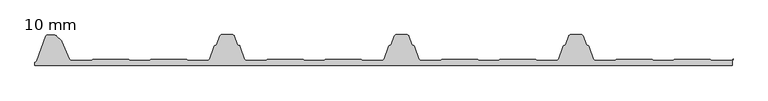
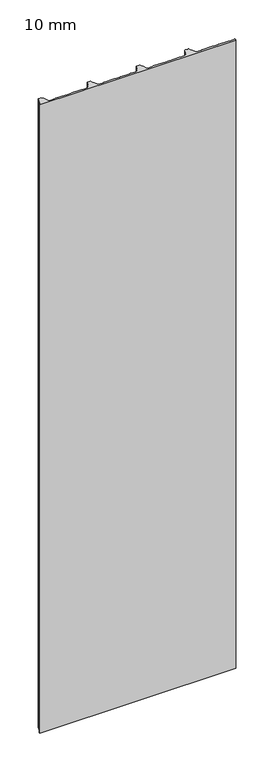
"""IFC4 building model written with IfcOpenShell, lengths in millimetres: plate geometry, HIANSA PANEL - H20.F01.009-PANELES DE CUBIERTA SIN TAPAJUNTA - EASY ALU 5GR - Panel de Muro Cortina : 10 mm."""

from ifc_helpers import new_model, si_unit, point, frame_2d, origin, origin_with_axes, place, context, project, spatial, polyline, circle_curve, trimmed, segment, composite_curve, outline, extrude, source, transform, mapped, element, save


def plate_10_mm_8220b348(model_context):
    return source(origin(), model_context, "Body", "SweptSolid", [
        extrude(outline(composite_curve([segment(polyline([(-486.0046627, 5.4632456), (-484.137089, 6.894297), (-483.3059854, 7.4234527), (-470.422387, 42.8208483)]), True, "CONTINUOUS"), segment(trimmed(circle_curve(frame_2d((-468.1671247, 42.0)), 2.4), [point((-470.422387, 42.8208483))], [point((-468.1671247, 44.4))], False, "CARTESIAN"), True, "CONTINUOUS"), segment(polyline([(-468.1671247, 44.4), (-458.1823567, 44.4)]), True, "CONTINUOUS"), segment(trimmed(circle_curve(frame_2d((-458.1823567, 40.0)), 4.4), [point((-458.1823567, 44.4))], [point((-455.0710869, 43.1112698))], False, "CARTESIAN"), True, "CONTINUOUS"), segment(polyline([(-455.0710869, 43.1112698), (-448.3843059, 36.4244889)]), True, "CONTINUOUS"), segment(trimmed(circle_curve(frame_2d((-451.4955758, 33.313219)), 4.4), [point((-448.3843059, 36.4244889))], [point((-447.4584377, 35.0629379))], False, "CARTESIAN"), True, "CONTINUOUS"), segment(polyline([(-447.4584377, 35.0629379), (-436.669007, 10.1684119)]), True, "CONTINUOUS"), segment(trimmed(circle_curve(frame_2d((-433.365894, 11.6)), 3.6), [point((-436.669007, 10.1684119))], [point((-433.365894, 8.0))], True, "CARTESIAN"), True, "CONTINUOUS"), segment(polyline([(-433.365894, 8.0), (-405.5009812, 8.0)]), True, "CONTINUOUS"), segment(trimmed(circle_curve(frame_2d((-405.5009812, 10.6)), 2.6), [point((-405.5009812, 8.0))], [point((-403.9019917, 8.5498213))], True, "CARTESIAN"), True, "CONTINUOUS"), segment(polyline([(-403.9019917, 8.5498213), (-403.236987, 9.1783324)]), True, "CONTINUOUS"), segment(trimmed(circle_curve(frame_2d((-402.3441269, 8.1)), 1.4), [point((-403.236987, 9.1783324))], [point((-402.3441269, 9.5))], False, "CARTESIAN"), True, "CONTINUOUS"), segment(polyline([(-402.3441269, 9.5), (-352.3428935, 9.5)]), True, "CONTINUOUS"), segment(trimmed(circle_curve(frame_2d((-352.3428935, 8.1)), 1.4), [point((-352.3428935, 9.5))], [point((-351.4500334, 9.1783324))], False, "CARTESIAN"), True, "CONTINUOUS"), segment(polyline([(-351.4500334, 9.1783324), (-350.7850287, 8.5498213)]), True, "CONTINUOUS"), segment(trimmed(circle_curve(frame_2d((-349.1860393, 10.6)), 2.6), [point((-350.7850287, 8.5498213))], [point((-349.1860393, 8.0))], True, "CARTESIAN"), True, "CONTINUOUS"), segment(polyline([(-349.1860393, 8.0), (-322.1676478, 8.0)]), True, "CONTINUOUS"), segment(trimmed(circle_curve(frame_2d((-322.1676478, 10.6)), 2.6), [point((-322.1676478, 8.0))], [point((-320.5686584, 8.5498213))], True, "CARTESIAN"), True, "CONTINUOUS"), segment(polyline([(-320.5686584, 8.5498213), (-319.9036537, 9.1783324)]), True, "CONTINUOUS"), segment(trimmed(circle_curve(frame_2d((-319.0107936, 8.1)), 1.4), [point((-319.9036537, 9.1783324))], [point((-319.0107936, 9.5))], False, "CARTESIAN"), True, "CONTINUOUS"), segment(polyline([(-319.0107936, 9.5), (-269.0095602, 9.5)]), True, "CONTINUOUS"), segment(trimmed(circle_curve(frame_2d((-269.0095602, 8.1)), 1.4), [point((-269.0095602, 9.5))], [point((-268.1167, 9.1783324))], False, "CARTESIAN"), True, "CONTINUOUS"), segment(polyline([(-268.1167, 9.1783324), (-267.4516953, 8.5498213)]), True, "CONTINUOUS"), segment(trimmed(circle_curve(frame_2d((-265.8527059, 10.6)), 2.6), [point((-267.4516953, 8.5498213))], [point((-265.8527059, 8.0))], True, "CARTESIAN"), True, "CONTINUOUS"), segment(polyline([(-265.8527059, 8.0), (-238.8343148, 8.0)]), True, "CONTINUOUS"), segment(trimmed(circle_curve(frame_2d((-238.8343148, 11.6)), 3.6), [point((-238.8343148, 8.0))], [point((-235.4514214, 10.3687274))], True, "CARTESIAN"), True, "CONTINUOUS"), segment(polyline([(-235.4514214, 10.3687274), (-228.7331927, 28.8269071)]), True, "CONTINUOUS"), segment(trimmed(circle_curve(frame_2d((-227.7935001, 28.4848869)), 1.0), [point((-228.7331927, 28.8269071))], [point((-228.1355202, 29.4245795))], False, "CARTESIAN"), True, "CONTINUOUS"), segment(polyline([(-228.1355202, 29.4245795), (-226.2894564, 30.0964918)]), True, "CONTINUOUS"), segment(trimmed(circle_curve(frame_2d((-226.8366886, 31.6)), 1.6), [point((-226.2894564, 30.0964918))], [point((-225.3331804, 31.0527678))], True, "CARTESIAN"), True, "CONTINUOUS"), segment(polyline([(-225.3331804, 31.0527678), (-220.9752583, 43.0260604)]), True, "CONTINUOUS"), segment(trimmed(circle_curve(frame_2d((-218.1561804, 42.0)), 3.0), [point((-220.9752583, 43.0260604))], [point((-218.1561804, 45.0))], False, "CARTESIAN"), True, "CONTINUOUS"), segment(polyline([(-218.1561804, 45.0), (-203.1975067, 45.0)]), True, "CONTINUOUS"), segment(trimmed(circle_curve(frame_2d((-203.1975067, 42.0)), 3.0), [point((-203.1975067, 45.0))], [point((-200.3784288, 43.0260604))], False, "CARTESIAN"), True, "CONTINUOUS"), segment(polyline([(-200.3784288, 43.0260604), (-196.0205067, 31.0527678)]), True, "CONTINUOUS"), segment(trimmed(circle_curve(frame_2d((-194.5169985, 31.6)), 1.6), [point((-196.0205067, 31.0527678))], [point((-195.0642307, 30.0964918))], True, "CARTESIAN"), True, "CONTINUOUS"), segment(polyline([(-195.0642307, 30.0964918), (-193.2181669, 29.4245795)]), True, "CONTINUOUS"), segment(trimmed(circle_curve(frame_2d((-193.560187, 28.4848869)), 1.0), [point((-193.2181669, 29.4245795))], [point((-192.6204944, 28.8269071))], False, "CARTESIAN"), True, "CONTINUOUS"), segment(polyline([(-192.6204944, 28.8269071), (-185.9022656, 10.3687274)]), True, "CONTINUOUS"), segment(trimmed(circle_curve(frame_2d((-182.5193722, 11.6)), 3.6), [point((-185.9022656, 10.3687274))], [point((-182.5193722, 8.0))], True, "CARTESIAN"), True, "CONTINUOUS"), segment(polyline([(-182.5193722, 8.0), (-155.5009812, 8.0)]), True, "CONTINUOUS"), segment(trimmed(circle_curve(frame_2d((-155.5009812, 10.6)), 2.6), [point((-155.5009812, 8.0))], [point((-153.9019917, 8.5498213))], True, "CARTESIAN"), True, "CONTINUOUS"), segment(polyline([(-153.9019917, 8.5498213), (-153.236987, 9.1783324)]), True, "CONTINUOUS"), segment(trimmed(circle_curve(frame_2d((-152.3441269, 8.1)), 1.4), [point((-153.236987, 9.1783324))], [point((-152.3441269, 9.5))], False, "CARTESIAN"), True, "CONTINUOUS"), segment(polyline([(-152.3441269, 9.5), (-102.3428935, 9.5)]), True, "CONTINUOUS"), segment(trimmed(circle_curve(frame_2d((-102.3428935, 8.1)), 1.4), [point((-102.3428935, 9.5))], [point((-101.4500334, 9.1783324))], False, "CARTESIAN"), True, "CONTINUOUS"), segment(polyline([(-101.4500334, 9.1783324), (-100.7850287, 8.5498213)]), True, "CONTINUOUS"), segment(trimmed(circle_curve(frame_2d((-99.1860393, 10.6)), 2.6), [point((-100.7850287, 8.5498213))], [point((-99.1860393, 8.0))], True, "CARTESIAN"), True, "CONTINUOUS"), segment(polyline([(-99.1860393, 8.0), (-72.1676478, 8.0)]), True, "CONTINUOUS"), segment(trimmed(circle_curve(frame_2d((-72.1676478, 10.6)), 2.6), [point((-72.1676478, 8.0))], [point((-70.5686584, 8.5498213))], True, "CARTESIAN"), True, "CONTINUOUS"), segment(polyline([(-70.5686584, 8.5498213), (-69.9036537, 9.1783324)]), True, "CONTINUOUS"), segment(trimmed(circle_curve(frame_2d((-69.0107936, 8.1)), 1.4), [point((-69.9036537, 9.1783324))], [point((-69.0107936, 9.5))], False, "CARTESIAN"), True, "CONTINUOUS"), segment(polyline([(-69.0107936, 9.5), (-19.0095602, 9.5)]), True, "CONTINUOUS"), segment(trimmed(circle_curve(frame_2d((-19.0095602, 8.1)), 1.4), [point((-19.0095602, 9.5))], [point((-18.1167, 9.1783324))], False, "CARTESIAN"), True, "CONTINUOUS"), segment(polyline([(-18.1167, 9.1783324), (-17.4516953, 8.5498213)]), True, "CONTINUOUS"), segment(trimmed(circle_curve(frame_2d((-15.8527059, 10.6)), 2.6), [point((-17.4516953, 8.5498213))], [point((-15.8527059, 8.0))], True, "CARTESIAN"), True, "CONTINUOUS"), segment(polyline([(-15.8527059, 8.0), (11.1656852, 8.0)]), True, "CONTINUOUS"), segment(trimmed(circle_curve(frame_2d((11.1656852, 11.6)), 3.6), [point((11.1656852, 8.0))], [point((14.5485786, 10.3687274))], True, "CARTESIAN"), True, "CONTINUOUS"), segment(polyline([(14.5485786, 10.3687274), (21.2668073, 28.8269071)]), True, "CONTINUOUS"), segment(trimmed(circle_curve(frame_2d((22.2064999, 28.4848869)), 1.0), [point((21.2668073, 28.8269071))], [point((21.8644798, 29.4245795))], False, "CARTESIAN"), True, "CONTINUOUS"), segment(polyline([(21.8644798, 29.4245795), (23.7105436, 30.0964918)]), True, "CONTINUOUS"), segment(trimmed(circle_curve(frame_2d((23.1633114, 31.6)), 1.6), [point((23.7105436, 30.0964918))], [point((24.6668196, 31.0527678))], True, "CARTESIAN"), True, "CONTINUOUS"), segment(polyline([(24.6668196, 31.0527678), (29.0247417, 43.0260604)]), True, "CONTINUOUS"), segment(trimmed(circle_curve(frame_2d((31.8438196, 42.0)), 3.0), [point((29.0247417, 43.0260604))], [point((31.8438196, 45.0))], False, "CARTESIAN"), True, "CONTINUOUS"), segment(polyline([(31.8438196, 45.0), (46.8024933, 45.0)]), True, "CONTINUOUS"), segment(trimmed(circle_curve(frame_2d((46.8024933, 42.0)), 3.0), [point((46.8024933, 45.0))], [point((49.6215712, 43.0260604))], False, "CARTESIAN"), True, "CONTINUOUS"), segment(polyline([(49.6215712, 43.0260604), (53.9794933, 31.0527678)]), True, "CONTINUOUS"), segment(trimmed(circle_curve(frame_2d((55.4830015, 31.6)), 1.6), [point((53.9794933, 31.0527678))], [point((54.9357693, 30.0964918))], True, "CARTESIAN"), True, "CONTINUOUS"), segment(polyline([(54.9357693, 30.0964918), (56.7818331, 29.4245795)]), True, "CONTINUOUS"), segment(trimmed(circle_curve(frame_2d((56.439813, 28.4848869)), 1.0), [point((56.7818331, 29.4245795))], [point((57.3795056, 28.8269071))], False, "CARTESIAN"), True, "CONTINUOUS"), segment(polyline([(57.3795056, 28.8269071), (64.0977344, 10.3687274)]), True, "CONTINUOUS"), segment(trimmed(circle_curve(frame_2d((67.4806278, 11.6)), 3.6), [point((64.0977344, 10.3687274))], [point((67.4806278, 8.0))], True, "CARTESIAN"), True, "CONTINUOUS"), segment(polyline([(67.4806278, 8.0), (94.4990188, 8.0)]), True, "CONTINUOUS"), segment(trimmed(circle_curve(frame_2d((94.4990188, 10.6)), 2.6), [point((94.4990188, 8.0))], [point((96.0980083, 8.5498213))], True, "CARTESIAN"), True, "CONTINUOUS"), segment(polyline([(96.0980083, 8.5498213), (96.763013, 9.1783324)]), True, "CONTINUOUS"), segment(trimmed(circle_curve(frame_2d((97.6558731, 8.1)), 1.4), [point((96.763013, 9.1783324))], [point((97.6558731, 9.5))], False, "CARTESIAN"), True, "CONTINUOUS"), segment(polyline([(97.6558731, 9.5), (147.6571065, 9.5)]), True, "CONTINUOUS"), segment(trimmed(circle_curve(frame_2d((147.6571065, 8.1)), 1.4), [point((147.6571065, 9.5))], [point((148.5499666, 9.1783324))], False, "CARTESIAN"), True, "CONTINUOUS"), segment(polyline([(148.5499666, 9.1783324), (149.2149713, 8.5498213)]), True, "CONTINUOUS"), segment(trimmed(circle_curve(frame_2d((150.8139607, 10.6)), 2.6), [point((149.2149713, 8.5498213))], [point((150.8139607, 8.0))], True, "CARTESIAN"), True, "CONTINUOUS"), segment(polyline([(150.8139607, 8.0), (177.8323522, 8.0)]), True, "CONTINUOUS"), segment(trimmed(circle_curve(frame_2d((177.8323522, 10.6)), 2.6), [point((177.8323522, 8.0))], [point((179.4313416, 8.5498213))], True, "CARTESIAN"), True, "CONTINUOUS"), segment(polyline([(179.4313416, 8.5498213), (180.0963463, 9.1783324)]), True, "CONTINUOUS"), segment(trimmed(circle_curve(frame_2d((180.9892064, 8.1)), 1.4), [point((180.0963463, 9.1783324))], [point((180.9892064, 9.5))], False, "CARTESIAN"), True, "CONTINUOUS"), segment(polyline([(180.9892064, 9.5), (230.9904398, 9.5)]), True, "CONTINUOUS"), segment(trimmed(circle_curve(frame_2d((230.9904398, 8.1)), 1.4), [point((230.9904398, 9.5))], [point((231.8833, 9.1783324))], False, "CARTESIAN"), True, "CONTINUOUS"), segment(polyline([(231.8833, 9.1783324), (232.5483047, 8.5498213)]), True, "CONTINUOUS"), segment(trimmed(circle_curve(frame_2d((234.1472941, 10.6)), 2.6), [point((232.5483047, 8.5498213))], [point((234.1472941, 8.0))], True, "CARTESIAN"), True, "CONTINUOUS"), segment(polyline([(234.1472941, 8.0), (261.1656852, 8.0)]), True, "CONTINUOUS"), segment(trimmed(circle_curve(frame_2d((261.1656852, 11.6)), 3.6), [point((261.1656852, 8.0))], [point((264.5485786, 10.3687274))], True, "CARTESIAN"), True, "CONTINUOUS"), segment(polyline([(264.5485786, 10.3687274), (271.2668073, 28.8269071)]), True, "CONTINUOUS"), segment(trimmed(circle_curve(frame_2d((272.2064999, 28.4848869)), 1.0), [point((271.2668073, 28.8269071))], [point((271.8644798, 29.4245795))], False, "CARTESIAN"), True, "CONTINUOUS"), segment(polyline([(271.8644798, 29.4245795), (273.7105436, 30.0964918)]), True, "CONTINUOUS"), segment(trimmed(circle_curve(frame_2d((273.1633114, 31.6)), 1.6), [point((273.7105436, 30.0964918))], [point((274.6668196, 31.0527678))], True, "CARTESIAN"), True, "CONTINUOUS"), segment(polyline([(274.6668196, 31.0527678), (279.0247417, 43.0260604)]), True, "CONTINUOUS"), segment(trimmed(circle_curve(frame_2d((281.8438196, 42.0)), 3.0), [point((279.0247417, 43.0260604))], [point((281.8438196, 45.0))], False, "CARTESIAN"), True, "CONTINUOUS"), segment(polyline([(281.8438196, 45.0), (296.8024933, 45.0)]), True, "CONTINUOUS"), segment(trimmed(circle_curve(frame_2d((296.8024933, 42.0)), 3.0), [point((296.8024933, 45.0))], [point((299.6215712, 43.0260604))], False, "CARTESIAN"), True, "CONTINUOUS"), segment(polyline([(299.6215712, 43.0260604), (303.9794933, 31.0527678)]), True, "CONTINUOUS"), segment(trimmed(circle_curve(frame_2d((305.4830015, 31.6)), 1.6), [point((303.9794933, 31.0527678))], [point((304.9357693, 30.0964918))], True, "CARTESIAN"), True, "CONTINUOUS"), segment(polyline([(304.9357693, 30.0964918), (306.7818331, 29.4245795)]), True, "CONTINUOUS"), segment(trimmed(circle_curve(frame_2d((306.439813, 28.4848869)), 1.0), [point((306.7818331, 29.4245795))], [point((307.3795056, 28.8269071))], False, "CARTESIAN"), True, "CONTINUOUS"), segment(polyline([(307.3795056, 28.8269071), (314.0977344, 10.3687274)]), True, "CONTINUOUS"), segment(trimmed(circle_curve(frame_2d((317.4806278, 11.6)), 3.6), [point((314.0977344, 10.3687274))], [point((317.4806278, 8.0))], True, "CARTESIAN"), True, "CONTINUOUS"), segment(polyline([(317.4806278, 8.0), (344.4990188, 8.0)]), True, "CONTINUOUS"), segment(trimmed(circle_curve(frame_2d((344.4990188, 10.6)), 2.6), [point((344.4990188, 8.0))], [point((346.0980083, 8.5498213))], True, "CARTESIAN"), True, "CONTINUOUS"), segment(polyline([(346.0980083, 8.5498213), (346.763013, 9.1783324)]), True, "CONTINUOUS"), segment(trimmed(circle_curve(frame_2d((347.6558731, 8.1)), 1.4), [point((346.763013, 9.1783324))], [point((347.6558731, 9.5))], False, "CARTESIAN"), True, "CONTINUOUS"), segment(polyline([(347.6558731, 9.5), (397.6571065, 9.5)]), True, "CONTINUOUS"), segment(trimmed(circle_curve(frame_2d((397.6571065, 8.1)), 1.4), [point((397.6571065, 9.5))], [point((398.5499666, 9.1783324))], False, "CARTESIAN"), True, "CONTINUOUS"), segment(polyline([(398.5499666, 9.1783324), (399.2149713, 8.5498213)]), True, "CONTINUOUS"), segment(trimmed(circle_curve(frame_2d((400.8139607, 10.6)), 2.6), [point((399.2149713, 8.5498213))], [point((400.8139607, 8.0))], True, "CARTESIAN"), True, "CONTINUOUS"), segment(polyline([(400.8139607, 8.0), (427.8323522, 8.0)]), True, "CONTINUOUS"), segment(trimmed(circle_curve(frame_2d((427.8323522, 10.6)), 2.6), [point((427.8323522, 8.0))], [point((429.4313416, 8.5498213))], True, "CARTESIAN"), True, "CONTINUOUS"), segment(polyline([(429.4313416, 8.5498213), (430.0963463, 9.1783324)]), True, "CONTINUOUS"), segment(trimmed(circle_curve(frame_2d((430.9892064, 8.1)), 1.4), [point((430.0963463, 9.1783324))], [point((430.9892064, 9.5))], False, "CARTESIAN"), True, "CONTINUOUS"), segment(polyline([(430.9892064, 9.5), (480.9904398, 9.5)]), True, "CONTINUOUS"), segment(trimmed(circle_curve(frame_2d((480.9904398, 8.1)), 1.4), [point((480.9904398, 9.5))], [point((481.8833, 9.1783324))], False, "CARTESIAN"), True, "CONTINUOUS"), segment(polyline([(481.8833, 9.1783324), (482.5483047, 8.5498213)]), True, "CONTINUOUS"), segment(trimmed(circle_curve(frame_2d((484.1472941, 10.6)), 2.6), [point((482.5483047, 8.5498213))], [point((484.1472941, 8.0))], True, "CARTESIAN"), True, "CONTINUOUS"), segment(polyline([(484.1472941, 8.0), (511.1656852, 8.0)]), True, "CONTINUOUS"), segment(trimmed(circle_curve(frame_2d((511.1656852, 11.6)), 3.6), [point((511.1656852, 8.0))], [point((514.4544488, 10.1357481))], True, "CARTESIAN"), True, "CONTINUOUS"), segment(polyline([(514.4544488, 10.1357481), (513.0032453, 6.8762916), (512.9993985, 0.9999335)]), True, "CONTINUOUS"), segment(trimmed(circle_curve(frame_2d((512.4993985, 0.9999588)), 0.5), [point((512.9993985, 0.9999335))], [point((512.4993985, 0.4999588))], False, "CARTESIAN"), True, "CONTINUOUS"), segment(polyline([(512.4993985, 0.4999588), (-486.0046627, 0.4999588), (-486.0046627, 5.4632456)]), True, "CONTINUOUS")], self_intersect=False)), origin_with_axes(), (0.0, 0.0, 1.0), 3390.8509027),
    ])


if __name__ == "__main__":
    model = new_model("IFC4")
    model_context = context("Model", 3, world=origin())
    ifc_project = project(units=[si_unit("LENGTHUNIT", "METRE", prefix="MILLI")], contexts=[model_context])
    site = spatial("IfcSite", under=ifc_project)
    building = spatial("IfcBuilding", under=site)
    placement = place(None, origin())
    plate_10_mm_shape = plate_10_mm_8220b348(model_context)
    element("IfcPlate", 1, ObjectType="HIANSA PANEL - H20.F01.009-PANELES DE CUBIERTA SIN TAPAJUNTA - EASY ALU 5GR - Panel de Muro Cortina : 10 mm", at=placement, inside=building, context=model_context, shape_type="MappedRepresentation", body=[
        mapped(plate_10_mm_shape, transform((0.0, 0.0, 0.0), x_axis=(1.0, 0.0, 0.0), y_axis=(0.0, 1.0, 0.0), z_axis=(0.0, 0.0, 1.0))),
    ])
    save(model, "model.ifc")
